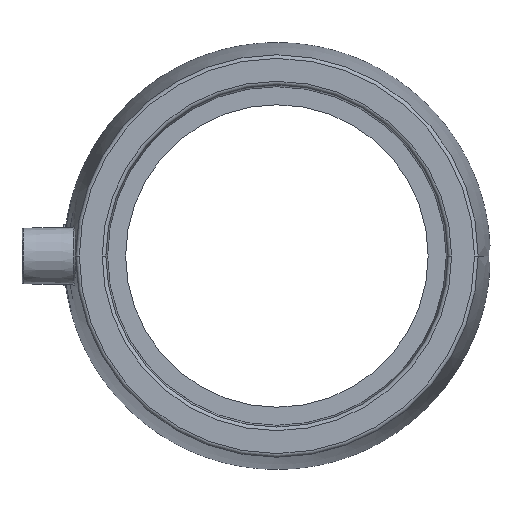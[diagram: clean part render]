
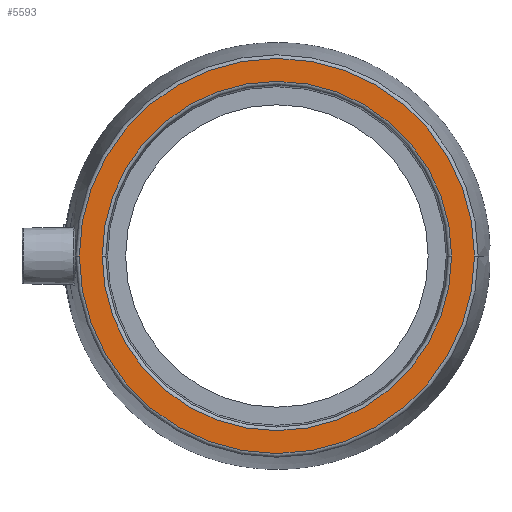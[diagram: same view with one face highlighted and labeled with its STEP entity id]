
A CAD part, left-side view. The second image highlights one B-rep face of the part: STEP entity #5593.
In plain terms, the highlighted planar face has unit normal (-1, 0, 0).
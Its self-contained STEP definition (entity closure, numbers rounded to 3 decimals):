
#1043 = EDGE_CURVE ( 'NONE', #3337, #3340, #23267, .T. ) ;
#1066 = EDGE_CURVE ( 'NONE', #3314, #3347, #23254, .T. ) ;
#3314 = VERTEX_POINT ( 'NONE', #22419 ) ;
#3337 = VERTEX_POINT ( 'NONE', #22442 ) ;
#3340 = VERTEX_POINT ( 'NONE', #22445 ) ;
#3347 = VERTEX_POINT ( 'NONE', #22452 ) ;
#4120 = ORIENTED_EDGE ( 'NONE', *, *, #17763, .T. ) ;
#4121 = ORIENTED_EDGE ( 'NONE', *, *, #1043, .T. ) ;
#4122 = ORIENTED_EDGE ( 'NONE', *, *, #1066, .F. ) ;
#4123 = ORIENTED_EDGE ( 'NONE', *, *, #17761, .F. ) ;
#5593 = ADVANCED_FACE ( 'NONE', ( #11870, #11873 ), #11874, .F. ) ;
#5854 = EDGE_LOOP ( 'NONE', ( #4120, #4121 ) ) ;
#5858 = EDGE_LOOP ( 'NONE', ( #4122, #4123 ) ) ;
#7345 = AXIS2_PLACEMENT_3D ( 'NONE', #10799, #10800, #10801 ) ;
#7361 = CIRCLE ( 'NONE', #7345, 46.941 ) ;
#7363 = CIRCLE ( 'NONE', #7366, 53.091 ) ;
#7366 = AXIS2_PLACEMENT_3D ( 'NONE', #10805, #10806, #10807 ) ;
#10799 = CARTESIAN_POINT ( 'NONE',  ( -55., 0., 0. ) ) ;
#10800 = DIRECTION ( 'NONE',  ( -1., 0., 0. ) ) ;
#10801 = DIRECTION ( 'NONE',  ( 0., -1., 0. ) ) ;
#10805 = CARTESIAN_POINT ( 'NONE',  ( -55., 0., 0. ) ) ;
#10806 = DIRECTION ( 'NONE',  ( -1., 0., 0. ) ) ;
#10807 = DIRECTION ( 'NONE',  ( 0., 1., 0. ) ) ;
#11869 = CARTESIAN_POINT ( 'NONE',  ( -55., 53.976, 0. ) ) ;
#11870 = FACE_OUTER_BOUND ( 'NONE', #5854, .T. ) ;
#11873 = FACE_BOUND ( 'NONE', #5858, .T. ) ;
#11874 = PLANE ( 'NONE',  #16815 ) ;
#11876 = DIRECTION ( 'NONE',  ( 1., 0., 0. ) ) ;
#11877 = DIRECTION ( 'NONE',  ( 0., 1., 0. ) ) ;
#16815 = AXIS2_PLACEMENT_3D ( 'NONE', #11869, #11876, #11877 ) ;
#17201 = CARTESIAN_POINT ( 'NONE',  ( -55., 0., 0. ) ) ;
#17202 = DIRECTION ( 'NONE',  ( -1., 0., 0. ) ) ;
#17203 = DIRECTION ( 'NONE',  ( 0., -1., 0. ) ) ;
#17761 = EDGE_CURVE ( 'NONE', #3347, #3314, #7361, .T. ) ;
#17763 = EDGE_CURVE ( 'NONE', #3340, #3337, #7363, .T. ) ;
#19962 = CARTESIAN_POINT ( 'NONE',  ( -55., 0., 0. ) ) ;
#19963 = DIRECTION ( 'NONE',  ( -1., 0., 0. ) ) ;
#19964 = DIRECTION ( 'NONE',  ( 0., 1., 0. ) ) ;
#22419 = CARTESIAN_POINT ( 'NONE',  ( -55., -46.941, 0. ) ) ;
#22442 = CARTESIAN_POINT ( 'NONE',  ( -55., -53.091, 0. ) ) ;
#22445 = CARTESIAN_POINT ( 'NONE',  ( -55., 53.091, 0. ) ) ;
#22452 = CARTESIAN_POINT ( 'NONE',  ( -55., 46.941, 0. ) ) ;
#23254 = CIRCLE ( 'NONE', #23255, 46.941 ) ;
#23255 = AXIS2_PLACEMENT_3D ( 'NONE', #17201, #17202, #17203 ) ;
#23264 = AXIS2_PLACEMENT_3D ( 'NONE', #19962, #19963, #19964 ) ;
#23267 = CIRCLE ( 'NONE', #23264, 53.091 ) ;
